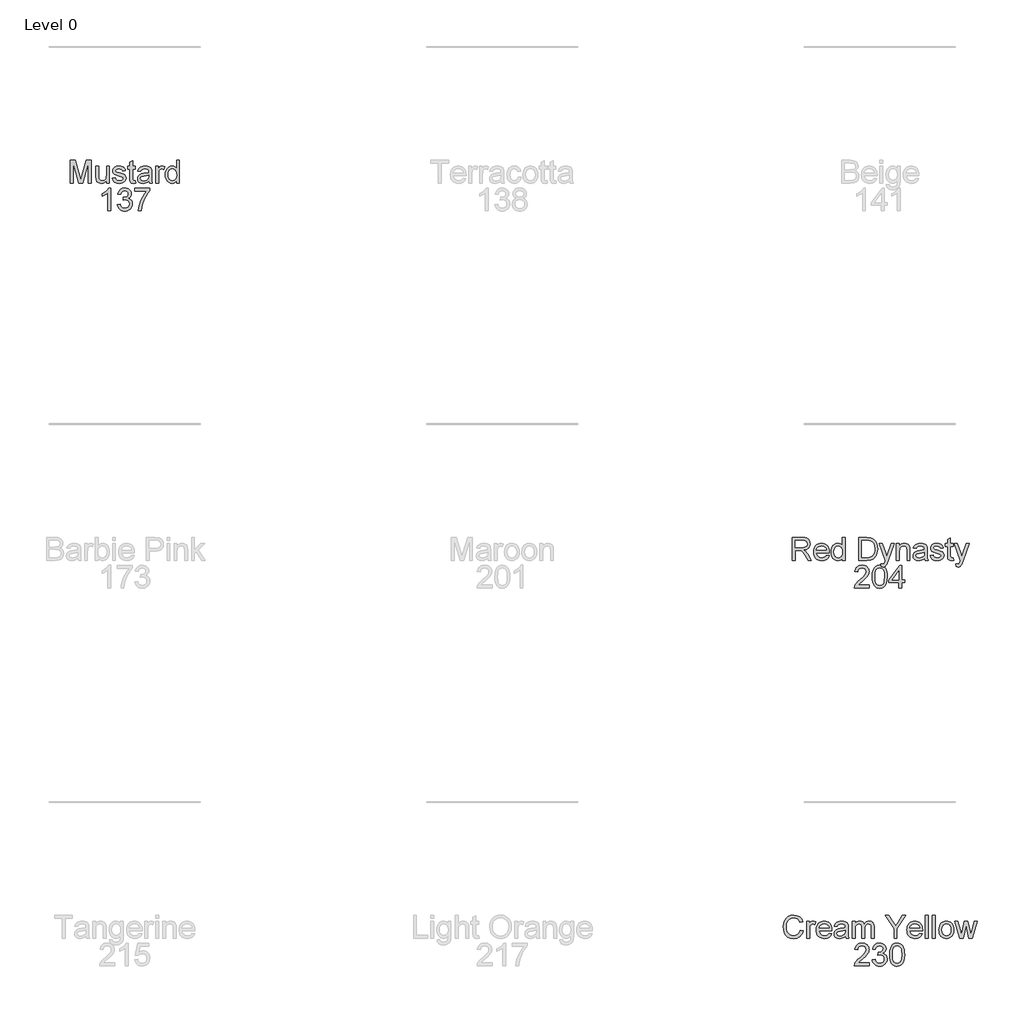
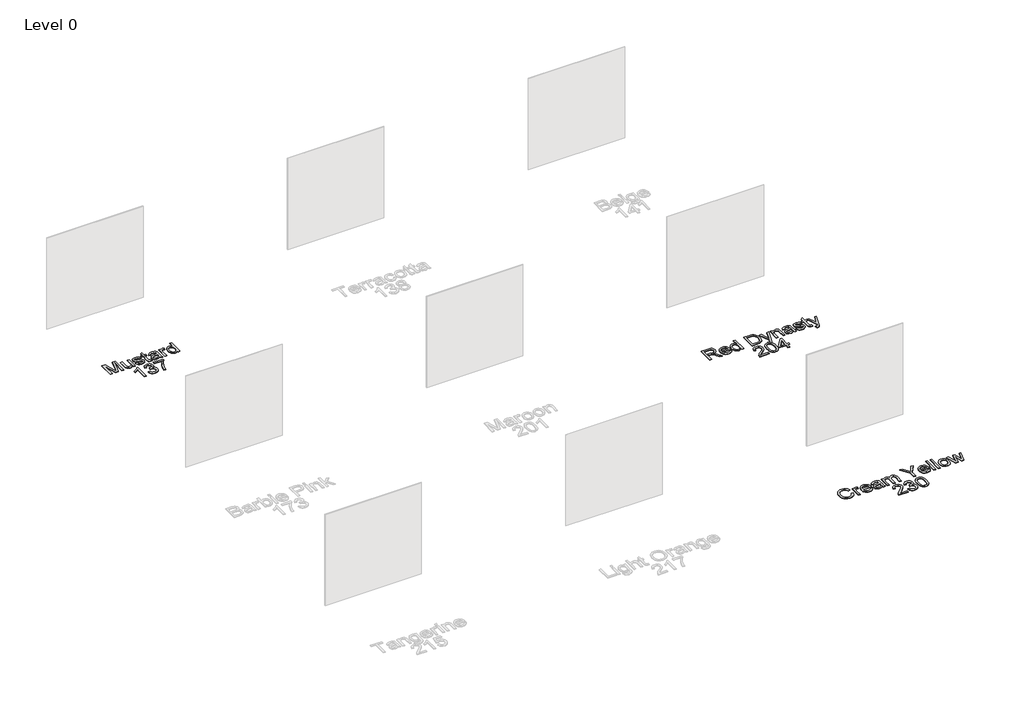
# One storey, part 12 of 15: 3 proxies.
"""IFC4 building model written with IfcOpenShell, lengths in millimetres."""

from ifc_helpers import new_model, si_unit, origin, origin_with_axes, place, context, project, spatial, polyline, outline, extrude, element, save

model = new_model("IFC4")

# Units and contexts
model_context = context("Model", 3, world=origin())
ifc_project = project(units=[si_unit("LENGTHUNIT", "METRE", prefix="MILLI")], contexts=[model_context])

# Site, building, storey
site = spatial("IfcSite", under=ifc_project)
building = spatial("IfcBuilding", under=site)
storey = spatial("IfcBuildingStorey", under=building, Name="Level 0", Elevation=0.0)

# Proxies
placement = place(None, origin())
element("IfcBuildingElementProxy", 1, Name="300mm Arial", ObjectType="300mm Arial", at=placement, inside=storey, context=model_context, shape_type="SweptSolid", body=[
    extrude(outline(polyline([(-171.1181557, -12002.860494), (-171.1181557, -11701.4915635), (-106.2973481, -11701.4915635), (-44.6403257, -11913.9066275), (-32.2059143, -11958.2731962), (-18.7414333, -11910.2278076), (41.8855195, -11701.4915635), (106.7063271, -11701.4915635), (106.7063271, -12002.860494), (69.0352108, -12002.860494), (69.0352108, -11739.1626798), (-6.6749038, -12002.860494), (-57.7369247, -12002.860494), (-133.4470394, -11739.1626798), (-133.4470394, -12002.860494), (-171.1181557, -12002.860494)])), origin_with_axes(), (0.0, 0.0, 1.0), 10.0),
    extrude(outline(polyline([(309.1885772, -12002.860494), (309.1885772, -11964.8214957), (295.5585493, -11983.5236966), (279.6844412, -11996.8824116), (261.566253, -12004.8976405), (241.2039845, -12007.5693835), (222.85587, -12005.6931853), (205.7769484, -12000.0645908), (191.4479447, -11991.6033049), (181.3495839, -11981.2290327), (170.1291831, -11953.4907302), (167.9218911, -11918.4683643), (167.9218911, -11781.5426857), (205.5930074, -11781.5426857), (205.5930074, -11900.7364521), (207.8738758, -11939.1433324), (213.3645145, -11951.9548229), (222.7730966, -11961.6944987), (235.4742225, -11967.8473251), (250.8424928, -11969.8982672), (267.0936799, -11967.8013398), (282.2964034, -11961.5105577), (294.8319824, -11951.605335), (303.0817361, -11938.6650858), (307.661867, -11920.9423707), (309.1885772, -11896.6897502), (309.1885772, -11781.5426857), (346.8596935, -11781.5426857), (346.8596935, -12002.860494), (309.1885772, -12002.860494)])), origin_with_axes(), (0.0, 0.0, 1.0), 10.0),
    extrude(outline(polyline([(384.5308099, -11936.9360404), (422.2019262, -11932.2271509), (428.1432204, -11948.3403823), (439.6395327, -11960.1861825), (456.7644396, -11967.470246), (479.5915174, -11969.8982672), (502.1426837, -11967.6725811), (517.9983977, -11960.9955229), (527.3793886, -11951.3202265), (530.5063855, -11940.0998256), (527.3609945, -11930.4981055), (517.9248213, -11923.1772538), (479.150059, -11912.4350996), (422.4226554, -11894.0042116), (408.0660605, -11884.7427824), (397.6641971, -11872.4831149), (391.3458238, -11858.0069584), (389.2396994, -11842.0960621), (390.9319566, -11827.5003439), (396.0087281, -11814.0266659), (404.0101615, -11802.2084568), (414.4764043, -11792.5791455), (438.4255221, -11781.4323211), (470.8359259, -11776.8337961), (495.3552609, -11778.6824032), (516.6740225, -11784.2282242), (533.8173235, -11792.9286334), (545.8102765, -11804.2410048), (553.7565276, -11819.0022698), (558.7597228, -11838.0493601), (521.0886065, -11842.7582497), (516.3337317, -11830.9032524), (506.9251496, -11821.972917), (492.7708899, -11816.3719136), (473.7789819, -11814.5049125), (452.1475206, -11816.2891401), (437.7265464, -11821.6418232), (429.6147484, -11829.3673451), (426.9108157, -11838.2700893), (431.398976, -11849.2329728), (445.4520683, -11857.5471059), (477.8992602, -11865.5669334), (533.1919241, -11883.2988455), (547.7968393, -11891.7785255), (558.8700874, -11903.3852025), (565.8506482, -11918.1556646), (568.1775018, -11936.1267001), (565.445978, -11954.7047408), (557.2514066, -11972.1791356), (543.9064872, -11987.1795239), (525.7239196, -11998.3355454), (503.7613645, -12005.260924), (479.0764826, -12007.5693835), (441.0926666, -12003.1180114), (413.3727583, -11989.763895), (394.8682939, -11967.654187), (384.5308099, -11936.9360404)])), origin_with_axes(), (0.0, 0.0, 1.0), 10.0),
    extrude(outline(polyline([(690.6086298, -11971.4433716), (695.3175194, -12003.96414), (667.1377585, -12007.5693835), (649.0563585, -12006.005885), (635.5734834, -12001.3153896), (626.0453397, -11994.0865084), (619.828134, -11984.9078526), (616.4068314, -11969.1441091), (615.2663972, -11942.1599648), (615.2663972, -11819.213802), (587.01306, -11819.213802), (587.01306, -11781.5426857), (615.2663972, -11781.5426857), (615.2663972, -11727.758338), (652.9375135, -11705.6118419), (652.9375135, -11781.5426857), (690.6086298, -11781.5426857), (690.6086298, -11819.213802), (652.9375135, -11819.213802), (652.9375135, -11941.0563188), (654.9240763, -11960.4804881), (661.3620112, -11967.3598814), (674.2010929, -11969.8982672), (690.6086298, -11971.4433716)])), origin_with_axes(), (0.0, 0.0, 1.0), 10.0),
    extrude(outline(polyline([(869.5464323, -11974.6071568), (851.5478057, -11990.0398064), (833.0157502, -12000.1381672), (813.5272015, -12005.7115794), (792.6590953, -12007.5693835), (761.1775936, -12003.0996173), (737.9550426, -11989.6903186), (723.635236, -11969.3280501), (718.8619671, -11943.9993748), (720.6645888, -11928.3827841), (726.0724542, -11914.2009331), (734.4141784, -11902.0608273), (745.0183769, -11892.5694718), (771.395516, -11880.2086368), (803.9898608, -11874.5432541), (842.5071056, -11868.5835657), (869.3257031, -11861.5938078), (869.5464323, -11853.2060983), (866.9528642, -11836.3938912), (859.17216, -11825.3942195), (841.7713417, -11817.2272392), (817.5279182, -11814.5049125), (795.0871165, -11816.3167313), (779.4153435, -11821.7521878), (768.7283715, -11831.8045633), (761.2419729, -11847.4671392), (723.5708566, -11842.7582497), (730.1099591, -11822.156858), (739.868029, -11805.9700502), (753.7555743, -11793.590821), (772.683103, -11784.4121652), (795.8320775, -11778.7283884), (822.3839605, -11776.8337961), (847.8505916, -11778.5076592), (868.0381161, -11783.5292485), (883.2592337, -11791.0800264), (893.826644, -11800.3414556), (900.834796, -11811.7917827), (905.3781386, -11825.9092543), (907.2175486, -11858.8714811), (907.2175486, -11905.7396473), (909.130535, -11971.1858542), (916.6353277, -12002.860494), (878.9642114, -12002.860494), (869.5464323, -11974.6071568)]), holes=[polyline([(869.5464323, -11899.2649241), (808.7723267, -11910.8164188), (776.3619229, -11916.9232599), (761.6834313, -11926.8560738), (756.5330834, -11941.3506244), (759.3381836, -11952.5526311), (767.7534842, -11961.7312869), (781.5950443, -11967.8565221), (800.6789228, -11969.8982672), (820.9124325, -11967.64499), (838.7914975, -11960.8851583), (853.2860481, -11950.9247533), (863.3660148, -11939.069756), (867.835781, -11926.8560738), (869.3257031, -11909.933502), (869.5464323, -11899.2649241)])]), origin_with_axes(), (0.0, 0.0, 1.0), 10.0),
    extrude(outline(polyline([(959.0153335, -12002.860494), (959.0153335, -11781.5426857), (991.9775603, -11781.5426857), (991.9775603, -11814.2841833), (1004.1544543, -11795.3014723), (1015.3748552, -11784.1178596), (1026.6320442, -11778.654812), (1038.9193029, -11776.8337961), (1057.6812846, -11779.7400639), (1076.737572, -11788.4588672), (1064.1560077, -11822.2304343), (1050.9122559, -11816.4362929), (1037.6685041, -11814.5049125), (1026.4205121, -11816.3627165), (1016.3681366, -11821.9361288), (1008.2471415, -11830.8020848), (1002.7932909, -11842.5375205), (998.2131601, -11863.5803706), (996.6864498, -11886.5362071), (996.6864498, -12002.860494), (959.0153335, -12002.860494)])), origin_with_axes(), (0.0, 0.0, 1.0), 10.0),
    extrude(outline(polyline([(1236.8398163, -12002.860494), (1236.8398163, -11967.3230932), (1225.5688317, -11984.9308452), (1211.9158111, -11997.507811), (1195.8807546, -12005.0539904), (1177.4636623, -12007.5693835), (1153.1098742, -12003.9273518), (1130.8162253, -11993.0012565), (1111.9438789, -11975.5544529), (1097.8539985, -11952.350296), (1089.0800129, -11924.3268851), (1086.1553511, -11892.422319), (1088.8500867, -11860.9132261), (1096.9342935, -11832.4575538), (1110.3987745, -11808.6739828), (1129.2343327, -11791.181194), (1152.0154252, -11780.4206456), (1177.3165095, -11776.8337961), (1195.7473974, -11779.3997731), (1212.0445698, -11787.0977038), (1225.8585387, -11798.8975188), (1236.8398163, -11813.7691485), (1236.8398163, -11701.4915635), (1274.5109326, -11701.4915635), (1274.5109326, -12002.860494), (1236.8398163, -12002.860494)]), holes=[polyline([(1123.8264674, -11892.2751662), (1128.0755044, -11926.350236), (1140.8226155, -11950.5844625), (1159.345474, -11965.069816), (1180.921753, -11969.8982672), (1202.488835, -11965.2905452), (1220.5426439, -11951.4673793), (1232.7655232, -11928.1712519), (1236.8398163, -11895.1446458), (1232.6919468, -11859.037028), (1220.2483383, -11834.0026582), (1201.7346769, -11819.3793489), (1179.3766486, -11814.5049125), (1157.5796404, -11819.1862108), (1139.7189696, -11833.230106), (1127.7995929, -11857.3539678), (1123.8264674, -11892.2751662)])]), origin_with_axes(), (0.0, 0.0, 1.0), 10.0),
    extrude(outline(polyline([(363.3408069, -12368.7849475), (325.6696906, -12368.7849475), (325.6696906, -12133.9290818), (289.9851371, -12159.3497277), (250.327458, -12178.3692268), (250.327458, -12142.7582497), (279.9143675, -12126.6634124), (305.5465455, -12107.5151545), (325.7524641, -12087.1528861), (339.0605952, -12067.4160171), (363.3408069, -12067.4160171), (363.3408069, -12368.7849475)])), origin_with_axes(), (0.0, 0.0, 1.0), 10.0),
    extrude(outline(polyline([(452.8097082, -12288.7338254), (490.4808245, -12284.0249358), (498.9145192, -12307.6981422), (511.2661572, -12323.6826149), (528.1427437, -12332.7876943), (550.1512841, -12335.8227207), (575.9766001, -12331.6472601), (595.9158043, -12319.1208782), (608.6629154, -12300.4324728), (612.9119525, -12277.7709419), (608.6997036, -12256.2590422), (596.0629571, -12238.8122386), (576.9330933, -12227.2515469), (553.2414928, -12223.397983), (526.8275656, -12227.5182614), (531.0214203, -12189.8471451), (537.0546851, -12190.2886035), (559.6242455, -12187.5846708), (579.8025729, -12179.4728728), (594.0396061, -12165.7508744), (598.7852838, -12146.2163404), (595.3455872, -12129.9467592), (585.0264972, -12116.7489926), (569.2811478, -12108.0025982), (549.5626729, -12105.0871334), (529.8074097, -12108.0301893), (513.6573902, -12116.8593572), (501.8667722, -12131.574637), (495.189714, -12152.1760288), (457.5185977, -12147.4671392), (468.6102399, -12113.6403898), (488.3471089, -12088.3852908), (515.3496473, -12072.6583355), (548.2382977, -12067.4160171), (571.9207011, -12070.0003881), (593.6717241, -12077.7535011), (612.0106416, -12089.9855775), (625.4567285, -12106.0068384), (633.7064822, -12124.4653175), (636.4564002, -12144.0090485), (633.844438, -12162.2192072), (626.0085515, -12178.7371088), (613.0591053, -12192.8085951), (595.1064639, -12203.6795081), (618.6876998, -12213.2076518), (636.1620946, -12229.4312477), (646.9778252, -12251.4673793), (650.5830688, -12278.4331295), (648.780447, -12297.5445992), (643.3725817, -12315.1477526), (634.3594728, -12331.2425899), (621.7411203, -12345.829111), (606.3682515, -12357.9324287), (589.0915933, -12366.5776555), (569.9111457, -12371.7647917), (548.8269089, -12373.4938371), (529.7706215, -12372.0177105), (512.4065914, -12367.589331), (496.7348184, -12360.2086985), (482.7553026, -12349.875813), (471.0336625, -12337.1976797), (462.1355167, -12322.781304), (456.0608653, -12306.6266859), (452.8097082, -12288.7338254)])), origin_with_axes(), (0.0, 0.0, 1.0), 10.0),
    extrude(outline(polyline([(683.5452955, -12109.7960229), (683.5452955, -12072.1249066), (881.3186561, -12072.1249066), (881.3186561, -12102.5855358), (853.1296983, -12138.2608923), (825.2166519, -12183.6299393), (800.5961493, -12234.5540045), (782.284823, -12286.8944154), (773.3085024, -12326.0554538), (768.3053072, -12368.7849475), (730.6341909, -12368.7849475), (734.708484, -12329.9550029), (745.6069881, -12283.8042066), (763.0353976, -12234.8850983), (786.699407, -12187.7502177), (814.3273448, -12145.1402856), (843.6475398, -12109.7960229), (683.5452955, -12109.7960229)])), origin_with_axes(), (0.0, 0.0, 1.0), 10.0),
])
element("IfcBuildingElementProxy", 2, Name="300mm Arial", ObjectType="300mm Arial", at=placement, inside=storey, context=model_context, shape_type="SweptSolid", body=[
    extrude(outline(polyline([(9393.309562, -17002.860494), (9393.309562, -16701.4915635), (9523.1719063, -16701.4915635), (9558.0747106, -16703.5241116), (9583.4677654, -16709.6217556), (9602.027412, -16720.8789447), (9616.4299921, -16738.3901276), (9625.6730273, -16760.1043624), (9628.754039, -16783.9707069), (9623.6496763, -16813.6587839), (9608.3365882, -16838.2700893), (9596.7368091, -16848.2994722), (9582.3549223, -16856.3147012), (9545.2448261, -16866.3026974), (9566.6555582, -16882.4159288), (9597.1897638, -16921.1906911), (9647.4424443, -17002.860494), (9603.6644869, -17002.860494), (9564.4482662, -16940.3941312), (9536.1213526, -16899.0441949), (9516.2189366, -16879.509661), (9498.3030835, -16872.3359621), (9476.450893, -16871.0115869), (9430.9806784, -16871.0115869), (9430.9806784, -17002.860494), (9393.309562, -17002.860494)]), holes=[polyline([(9430.9806784, -16833.3404706), (9515.2992316, -16833.3404706), (9539.515064, -16832.0068984), (9558.3046369, -16828.0061817), (9572.4496996, -16821.0716061), (9582.7320014, -16810.9364571), (9588.9951923, -16798.6767896), (9591.0829227, -16785.3686584), (9587.1006001, -16766.9929528), (9575.1536323, -16752.1857025), (9554.5982258, -16742.4184355), (9524.7905871, -16739.1626798), (9430.9806784, -16739.1626798), (9430.9806784, -16833.3404706)])]), origin_with_axes(), (0.0, 0.0, 1.0), 10.0),
    extrude(outline(polyline([(9844.9214993, -16936.9360404), (9881.8568516, -16941.64493), (9868.5487205, -16969.4752029), (9847.3127323, -16990.2789297), (9818.6271337, -17003.2467701), (9782.9701713, -17007.5693835), (9759.5958691, -17005.7046817), (9738.7691496, -17000.1105761), (9720.490013, -16990.7870668), (9704.7584592, -16977.7341537), (9692.1079171, -16961.3151204), (9683.0718156, -16941.8932503), (9677.6501546, -16919.4685435), (9675.8429343, -16894.0409998), (9677.6685487, -16867.7512327), (9683.1453919, -16844.5792656), (9692.273464, -16824.5250983), (9705.0527648, -16807.5887309), (9720.7429319, -16794.133447), (9738.6036027, -16784.5225298), (9758.6347774, -16778.7559796), (9780.8364558, -16776.8337961), (9802.3230635, -16778.751381), (9821.7541307, -16784.5041357), (9839.1296572, -16794.0920602), (9854.449643, -16807.5151545), (9866.9553316, -16824.4147337), (9875.8879663, -16844.4321128), (9881.2475471, -16867.5672917), (9883.034074, -16893.8202706), (9882.8133448, -16903.9738137), (9713.5140507, -16903.9738137), (9720.034759, -16932.1719686), (9735.1823002, -16952.902119), (9757.0436877, -16965.6492302), (9783.7059353, -16969.8982672), (9803.7555041, -16967.9300985), (9820.6412876, -16962.0255925), (9834.3632861, -16951.8168672), (9844.9214993, -16936.9360404)]), holes=[polyline([(9713.5140507, -16866.3026974), (9845.3629577, -16866.3026974), (9840.2677921, -16846.4002814), (9830.2797959, -16832.1632482), (9808.3172408, -16818.9194964), (9780.689303, -16814.5049125), (9755.2962483, -16818.0273826), (9734.2993834, -16828.5947929), (9719.7036652, -16845.0667092), (9713.5140507, -16866.3026974)])]), origin_with_axes(), (0.0, 0.0, 1.0), 10.0),
    extrude(outline(polyline([(10057.2629869, -17002.860494), (10057.2629869, -16967.3230932), (10045.9920023, -16984.9308452), (10032.3389818, -16997.507811), (10016.3039253, -17005.0539904), (9997.8868329, -17007.5693835), (9973.5330448, -17003.9273518), (9951.2393959, -16993.0012565), (9932.3670496, -16975.5544529), (9918.2771692, -16952.350296), (9909.5031836, -16924.3268851), (9906.5785217, -16892.422319), (9909.2732573, -16860.9132261), (9917.3574642, -16832.4575538), (9930.8219452, -16808.6739828), (9949.6575034, -16791.181194), (9972.4385959, -16780.4206456), (9997.7396801, -16776.8337961), (10016.1705681, -16779.3997731), (10032.4677405, -16787.0977038), (10046.2817094, -16798.8975188), (10057.2629869, -16813.7691485), (10057.2629869, -16701.4915635), (10094.9341033, -16701.4915635), (10094.9341033, -17002.860494), (10057.2629869, -17002.860494)]), holes=[polyline([(9944.249638, -16892.2751662), (9948.4986751, -16926.350236), (9961.2457862, -16950.5844625), (9979.7686447, -16965.069816), (10001.3449237, -16969.8982672), (10022.9120056, -16965.2905452), (10040.9658146, -16951.4673793), (10053.1886938, -16928.1712519), (10057.2629869, -16895.1446458), (10053.1151174, -16859.037028), (10040.671509, -16834.0026582), (10022.1578476, -16819.3793489), (9999.7998193, -16814.5049125), (9978.0028111, -16819.1862108), (9960.1421402, -16833.230106), (9948.2227636, -16857.3539678), (9944.249638, -16892.2751662)])]), origin_with_axes(), (0.0, 0.0, 1.0), 10.0),
    extrude(outline(polyline([(10273.8719057, -17002.860494), (10273.8719057, -16701.4915635), (10377.8353575, -16701.4915635), (10431.6197052, -16705.8325711), (10455.6423995, -16714.2018865), (10475.9126975, -16727.390456), (10496.7532125, -16750.3462925), (10511.597251, -16778.8939353), (10520.4816012, -16812.4815615), (10523.4430512, -16850.557348), (10521.4380944, -16882.9033724), (10515.4232237, -16911.3682418), (10506.2629621, -16935.6024682), (10494.821832, -16955.2565638), (10481.6516566, -16970.771987), (10467.3042588, -16982.590196), (10450.8323424, -16991.3549846), (10431.2886114, -16997.710146), (10382.8385527, -17002.860494), (10273.8719057, -17002.860494)]), holes=[polyline([(10311.543022, -16965.1893777), (10378.2032395, -16965.1893777), (10405.7759951, -16963.8282143), (10426.6900865, -16959.7447241), (10442.4722241, -16953.1780305), (10454.6491181, -16944.3672567), (10467.7365201, -16928.0608873), (10477.5681664, -16906.9536578), (10483.7209928, -16880.9535978), (10485.7719349, -16849.9687368), (10481.7528241, -16808.9131061), (10469.6954917, -16778.5996297), (10451.8808061, -16757.7775088), (10430.5896356, -16745.1959446), (10408.9213861, -16740.670996), (10377.1731699, -16739.1626798), (10311.543022, -16739.1626798), (10311.543022, -16965.1893777)])]), origin_with_axes(), (0.0, 0.0, 1.0), 10.0),
    extrude(outline(polyline([(10570.5319466, -17087.6205057), (10565.8230571, -17051.3473409), (10584.9529208, -17054.6582789), (10602.8319858, -17050.5012124), (10613.7948692, -17038.9129295), (10624.0955651, -17011.1746271), (10627.0386211, -17002.0511536), (10546.9874989, -16781.5426857), (10586.7187544, -16781.5426857), (10629.1723366, -16904.4152721), (10643.9611929, -16953.5643066), (10658.7500491, -16910.1542312), (10702.3808537, -16781.5426857), (10741.8178036, -16781.5426857), (10664.7833138, -17008.1579947), (10644.7705332, -17057.3070293), (10634.5250197, -17072.9971964), (10622.9183427, -17083.8681093), (10609.4354676, -17090.2140737), (10593.5613595, -17092.3293952), (10570.5319466, -17087.6205057)])), origin_with_axes(), (0.0, 0.0, 1.0), 10.0),
    extrude(outline(polyline([(10773.0141968, -17002.860494), (10773.0141968, -16781.5426857), (10810.6853131, -16781.5426857), (10810.6853131, -16812.4447733), (10823.772715, -16796.8649708), (10839.4904733, -16785.7365404), (10857.8385878, -16779.0594822), (10878.8170586, -16776.8337961), (10897.3859023, -16778.6272209), (10914.3912475, -16784.0074951), (10928.5730984, -16792.303234), (10938.6714592, -16802.8430532), (10949.9654364, -16830.5445674), (10951.9519992, -16866.964885), (10951.9519992, -17002.860494), (10914.2808829, -17002.860494), (10914.2808829, -16872.0416565), (10909.9398754, -16838.7115477), (10903.9342018, -16828.7879309), (10894.5991962, -16821.0900002), (10882.6338343, -16816.1511844), (10868.7370919, -16814.5049125), (10846.6733692, -16818.2021265), (10827.8654022, -16829.2937687), (10820.3491132, -16838.3482643), (10814.9803354, -16850.7228949), (10810.6853131, -16885.4325611), (10810.6853131, -17002.860494), (10773.0141968, -17002.860494)])), origin_with_axes(), (0.0, 0.0, 1.0), 10.0),
    extrude(outline(polyline([(11145.0164703, -16974.6071568), (11127.0178437, -16990.0398064), (11108.4857882, -17000.1381672), (11088.9972395, -17005.7115794), (11068.1291333, -17007.5693835), (11036.6476316, -17003.0996173), (11013.4250806, -16989.6903186), (10999.1052739, -16969.3280501), (10994.3320051, -16943.9993748), (10996.1346268, -16928.3827841), (11001.5424922, -16914.2009331), (11009.8842164, -16902.0608273), (11020.4884149, -16892.5694718), (11046.865554, -16880.2086368), (11079.4598987, -16874.5432541), (11117.9771436, -16868.5835657), (11144.7957411, -16861.5938078), (11145.0164703, -16853.2060983), (11142.4229022, -16836.3938912), (11134.642198, -16825.3942195), (11117.2413796, -16817.2272392), (11092.9979562, -16814.5049125), (11070.5571545, -16816.3167313), (11054.8853815, -16821.7521878), (11044.1984095, -16831.8045633), (11036.7120109, -16847.4671392), (10999.0408946, -16842.7582497), (11005.5799971, -16822.156858), (11015.338067, -16805.9700502), (11029.2256123, -16793.590821), (11048.153141, -16784.4121652), (11071.3021155, -16778.7283884), (11097.8539985, -16776.8337961), (11123.3206296, -16778.5076592), (11143.5081541, -16783.5292485), (11158.7292717, -16791.0800264), (11169.296682, -16800.3414556), (11176.304834, -16811.7917827), (11180.8481766, -16825.9092543), (11182.6875866, -16858.8714811), (11182.6875866, -16905.7396473), (11184.600573, -16971.1858542), (11192.1053657, -17002.860494), (11154.4342494, -17002.860494), (11145.0164703, -16974.6071568)]), holes=[polyline([(11145.0164703, -16899.2649241), (11084.2423647, -16910.8164188), (11051.8319609, -16916.9232599), (11037.1534693, -16926.8560738), (11032.0031214, -16941.3506244), (11034.8082216, -16952.5526311), (11043.2235222, -16961.7312869), (11057.0650823, -16967.8565221), (11076.1489608, -16969.8982672), (11096.3824705, -16967.64499), (11114.2615355, -16960.8851583), (11128.7560861, -16950.9247533), (11138.8360528, -16939.069756), (11143.305819, -16926.8560738), (11144.7957411, -16909.933502), (11145.0164703, -16899.2649241)])]), origin_with_axes(), (0.0, 0.0, 1.0), 10.0),
    extrude(outline(polyline([(11220.3587029, -16936.9360404), (11258.0298192, -16932.2271509), (11263.9711134, -16948.3403823), (11275.4674258, -16960.1861825), (11292.5923326, -16967.470246), (11315.4194104, -16969.8982672), (11337.9705768, -16967.6725811), (11353.8262907, -16960.9955229), (11363.2072816, -16951.3202265), (11366.3342786, -16940.0998256), (11363.1888875, -16930.4981055), (11353.7527143, -16923.1772538), (11314.9779521, -16912.4350996), (11258.2505484, -16894.0042116), (11243.8939535, -16884.7427824), (11233.4920901, -16872.4831149), (11227.1737169, -16858.0069584), (11225.0675924, -16842.0960621), (11226.7598496, -16827.5003439), (11231.8366211, -16814.0266659), (11239.8380545, -16802.2084568), (11250.3042973, -16792.5791455), (11274.2534152, -16781.4323211), (11306.663819, -16776.8337961), (11331.1831539, -16778.6824032), (11352.5019156, -16784.2282242), (11369.6452165, -16792.9286334), (11381.6381696, -16804.2410048), (11389.5844207, -16819.0022698), (11394.5876158, -16838.0493601), (11356.9164995, -16842.7582497), (11352.1616247, -16830.9032524), (11342.7530427, -16821.972917), (11328.5987829, -16816.3719136), (11309.6068749, -16814.5049125), (11287.9754136, -16816.2891401), (11273.5544394, -16821.6418232), (11265.4426414, -16829.3673451), (11262.7387087, -16838.2700893), (11267.2268691, -16849.2329728), (11281.2799613, -16857.5471059), (11313.7271533, -16865.5669334), (11369.0198171, -16883.2988455), (11383.6247324, -16891.7785255), (11394.6979804, -16903.3852025), (11401.6785413, -16918.1556646), (11404.0053949, -16936.1267001), (11401.2738711, -16954.7047408), (11393.0792996, -16972.1791356), (11379.7343803, -16987.1795239), (11361.5518126, -16998.3355454), (11339.5892575, -17005.260924), (11314.9043757, -17007.5693835), (11276.9205597, -17003.1180114), (11249.2006513, -16989.763895), (11230.696187, -16967.654187), (11220.3587029, -16936.9360404)])), origin_with_axes(), (0.0, 0.0, 1.0), 10.0),
    extrude(outline(polyline([(11526.4365229, -16971.4433716), (11531.1454124, -17003.96414), (11502.9656516, -17007.5693835), (11484.8842515, -17006.005885), (11471.4013764, -17001.3153896), (11461.8732327, -16994.0865084), (11455.656027, -16984.9078526), (11452.2347245, -16969.1441091), (11451.0942903, -16942.1599648), (11451.0942903, -16819.213802), (11422.840953, -16819.213802), (11422.840953, -16781.5426857), (11451.0942903, -16781.5426857), (11451.0942903, -16727.758338), (11488.7654066, -16705.6118419), (11488.7654066, -16781.5426857), (11526.4365229, -16781.5426857), (11526.4365229, -16819.213802), (11488.7654066, -16819.213802), (11488.7654066, -16941.0563188), (11490.7519694, -16960.4804881), (11497.1899043, -16967.3598814), (11510.0289859, -16969.8982672), (11526.4365229, -16971.4433716)])), origin_with_axes(), (0.0, 0.0, 1.0), 10.0),
    extrude(outline(polyline([(11564.1076392, -17087.6205057), (11559.3987497, -17051.3473409), (11578.5286134, -17054.6582789), (11596.4076784, -17050.5012124), (11607.3705618, -17038.9129295), (11617.6712577, -17011.1746271), (11620.6143136, -17002.0511536), (11540.5631915, -16781.5426857), (11580.294447, -16781.5426857), (11622.7480292, -16904.4152721), (11637.5368854, -16953.5643066), (11652.3257416, -16910.1542312), (11695.9565463, -16781.5426857), (11735.3934961, -16781.5426857), (11658.3590064, -17008.1579947), (11638.3462258, -17057.3070293), (11628.1007122, -17072.9971964), (11616.4940353, -17083.8681093), (11603.0111602, -17090.2140737), (11587.1370521, -17092.3293952), (11564.1076392, -17087.6205057)])), origin_with_axes(), (0.0, 0.0, 1.0), 10.0),
    extrude(outline(polyline([(10415.1385919, -17331.1138312), (10415.1385919, -17368.7849475), (10217.3652312, -17368.7849475), (10221.4119332, -17342.8124787), (10230.7009536, -17322.5145896), (10244.2941933, -17302.8237058), (10263.9574859, -17282.213117), (10291.4566651, -17259.156113), (10332.1076255, -17223.0484951), (10356.4982018, -17196.3954446), (10368.69349, -17174.7639833), (10372.758586, -17153.7211331), (10368.9234162, -17134.8579838), (10357.4179068, -17119.1770138), (10339.7319799, -17108.6096035), (10317.3555575, -17105.0871334), (10293.8570951, -17108.52683), (10275.6009511, -17118.84592), (10263.8195302, -17135.2350629), (10259.7452371, -17156.8849183), (10222.0741208, -17152.1760288), (10231.2067913, -17115.7373171), (10239.7531499, -17101.2013798), (10250.9528574, -17089.1210548), (10264.5483964, -17079.6251008), (10280.2822495, -17072.8422765), (10318.1648979, -17067.4160171), (10338.3547217, -17068.9243332), (10356.3234579, -17073.4492818), (10372.0711065, -17080.9908627), (10385.5976676, -17091.549076), (10396.4616828, -17104.3421723), (10404.2216936, -17118.5884026), (10408.8777001, -17134.2877667), (10410.4297023, -17151.4402648), (10408.7558392, -17169.4572855), (10403.73425, -17187.1616065), (10394.8223087, -17205.1694302), (10381.4773893, -17224.0969588), (10360.2046129, -17246.6941104), (10327.5091006, -17275.7108027), (10284.1726016, -17311.9471793), (10267.1764534, -17331.1138312), (10415.1385919, -17331.1138312)])), origin_with_axes(), (0.0, 0.0, 1.0), 10.0),
    extrude(outline(polyline([(10452.8097082, -17220.5285035), (10455.5780202, -17172.2899768), (10463.8829562, -17133.8187172), (10477.6417428, -17104.5261133), (10496.7716066, -17083.8235541), (10521.4105032, -17071.5179013), (10551.6963885, -17067.4160171), (10574.9097424, -17069.8440382), (10595.6950751, -17077.1281017), (10613.0774994, -17088.983099), (10626.0821279, -17105.1239216), (10635.9045772, -17125.4126136), (10643.7404637, -17149.7112194), (10648.8724175, -17180.5673217), (10650.5830688, -17220.5285035), (10647.8423479, -17268.4911186), (10639.6201853, -17306.8704077), (10625.9441721, -17336.1906027), (10606.8418995, -17356.9759355), (10582.1478206, -17369.3643617), (10551.6963885, -17373.4938371), (10530.9478439, -17371.7004123), (10512.5537442, -17366.3201381), (10496.5140892, -17357.3530145), (10482.828879, -17344.7990414), (10469.6954917, -17322.1053209), (10460.3145009, -17293.828991), (10454.6859063, -17259.9700519), (10452.8097082, -17220.5285035)]), holes=[polyline([(10490.4808245, -17220.4549271), (10494.8954084, -17279.7115194), (10500.4136383, -17299.9795181), (10508.1391602, -17314.0073184), (10527.8576352, -17330.3688702), (10551.6963885, -17335.8227207), (10575.5351417, -17330.3504761), (10595.2536167, -17313.933742), (10602.9791386, -17299.8829491), (10608.4973685, -17279.6195489), (10612.9119525, -17220.4549271), (10608.6445213, -17162.5319069), (10603.3102324, -17142.3305869), (10595.8422279, -17127.9693935), (10576.1605411, -17110.8076984), (10551.2549301, -17105.0871334), (10527.6736942, -17110.1271167), (10508.7277714, -17125.2470667), (10500.7447321, -17140.8820515), (10495.0425612, -17161.9616898), (10490.4808245, -17220.4549271)])]), origin_with_axes(), (0.0, 0.0, 1.0), 10.0),
    extrude(outline(polyline([(10805.9764235, -17368.7849475), (10805.9764235, -17298.1516044), (10669.4186269, -17298.1516044), (10669.4186269, -17260.4804881), (10815.3942026, -17072.1249066), (10843.6475398, -17072.1249066), (10843.6475398, -17260.4804881), (10881.3186561, -17260.4804881), (10881.3186561, -17298.1516044), (10843.6475398, -17298.1516044), (10843.6475398, -17368.7849475), (10805.9764235, -17368.7849475)]), holes=[polyline([(10805.9764235, -17260.4804881), (10805.9764235, -17144.0826249), (10715.7717583, -17260.4804881), (10805.9764235, -17260.4804881)])]), origin_with_axes(), (0.0, 0.0, 1.0), 10.0),
])
element("IfcBuildingElementProxy", 3, Name="300mm Arial", ObjectType="300mm Arial", at=placement, inside=storey, context=model_context, shape_type="SweptSolid", body=[
    extrude(outline(polyline([(9499.2595767, -21904.8181976), (9536.930693, -21914.5302822), (9529.476484, -21937.9574675), (9519.5482687, -21958.4278013), (9507.1460469, -21975.9412835), (9492.2698188, -21990.4979142), (9475.2552765, -22001.9413435), (9456.4381124, -22010.1152216), (9435.8183266, -22015.0195485), (9413.395919, -22016.6543241), (9369.700735, -22011.7063113), (9335.0002658, -21996.8622727), (9308.4023976, -21972.6372434), (9289.0150164, -21939.5462579), (9277.1784132, -21900.6427369), (9273.2328788, -21858.980101), (9277.693448, -21815.0365966), (9291.0751556, -21777.0895688), (9312.6790258, -21746.3438311), (9341.8060827, -21724.0041969), (9376.3502021, -21710.4017602), (9414.2052594, -21705.8676146), (9455.5092104, -21711.7353324), (9473.4779466, -21719.0699797), (9489.6578566, -21729.3384859), (9503.7822259, -21742.269538), (9515.5843402, -21757.5918231), (9532.2218034, -21795.4100922), (9494.5506871, -21804.3864129), (9481.4908763, -21776.9148249), (9463.6485995, -21758.0700697), (9440.8031276, -21747.1715656), (9412.7337314, -21743.5387309), (9380.3785099, -21747.5670387), (9353.7990358, -21759.6519623), (9333.6299054, -21778.5243086), (9320.5057152, -21802.9148849), (9313.3044251, -21830.4876404), (9310.9039951, -21858.9065246), (9313.7458835, -21893.7081613), (9322.2715488, -21923.8009085), (9336.8028876, -21948.0351349), (9357.6617967, -21965.2612094), (9382.6685753, -21975.5527082), (9409.6435226, -21978.9832078), (9441.0882362, -21974.3111064), (9467.2906313, -21960.2948024), (9487.0734856, -21937.0814485), (9499.2595767, -21904.8181976)])), origin_with_axes(), (0.0, 0.0, 1.0), 10.0),
    extrude(outline(polyline([(9584.0195883, -22011.9454346), (9584.0195883, -21790.6276263), (9616.9818151, -21790.6276263), (9616.9818151, -21823.3691238), (9629.1587092, -21804.3864129), (9640.37911, -21793.2028002), (9651.6362991, -21787.7397526), (9663.9235577, -21785.9187367), (9682.6855395, -21788.8250045), (9701.7418268, -21797.5438078), (9689.1602626, -21831.3153749), (9675.9165107, -21825.5212335), (9662.6727589, -21823.589853), (9651.4247669, -21825.4476571), (9641.3723914, -21831.0210693), (9633.2513964, -21839.8870254), (9627.7975458, -21851.6224611), (9623.2174149, -21872.6653112), (9621.6907047, -21895.6211477), (9621.6907047, -22011.9454346), (9584.0195883, -22011.9454346)])), origin_with_axes(), (0.0, 0.0, 1.0), 10.0),
    extrude(outline(polyline([(9880.2381709, -21946.020981), (9917.1735232, -21950.7298706), (9903.865392, -21978.5601435), (9882.6294038, -21999.3638703), (9853.9438053, -22012.3317106), (9818.2868429, -22016.6543241), (9794.9125406, -22014.7896222), (9774.0858212, -22009.1955166), (9755.8066845, -21999.8720073), (9740.0751307, -21986.8190943), (9727.4245886, -21970.400061), (9718.3884871, -21950.9781909), (9712.9668262, -21928.553484), (9711.1596059, -21903.1259404), (9712.9852203, -21876.8361733), (9718.4620635, -21853.6642061), (9727.5901355, -21833.6100389), (9740.3694363, -21816.6736715), (9756.0596034, -21803.2183875), (9773.9202743, -21793.6074704), (9793.9514489, -21787.8409201), (9816.1531273, -21785.9187367), (9837.6397351, -21787.8363216), (9857.0708022, -21793.5890763), (9874.4463287, -21803.1770008), (9889.7663145, -21816.6000951), (9902.2720031, -21833.4996743), (9911.2046378, -21853.5170533), (9916.5642186, -21876.6522323), (9918.3507456, -21902.9052112), (9918.1300164, -21913.0587542), (9748.8307222, -21913.0587542), (9755.3514306, -21941.2569092), (9770.4989717, -21961.9870596), (9792.3603593, -21974.7341707), (9819.0226069, -21978.9832078), (9839.0721756, -21977.0150391), (9855.9579592, -21971.1105331), (9869.6799576, -21960.9018077), (9880.2381709, -21946.020981)]), holes=[polyline([(9748.8307222, -21875.3876379), (9880.6796293, -21875.3876379), (9875.5844636, -21855.485222), (9865.5964675, -21841.2481888), (9843.6339123, -21828.004437), (9816.0059745, -21823.589853), (9790.6129198, -21827.1123231), (9769.6160549, -21837.6797334), (9755.0203368, -21854.1516498), (9748.8307222, -21875.3876379)])]), origin_with_axes(), (0.0, 0.0, 1.0), 10.0),
    extrude(outline(polyline([(10097.288548, -21983.6920973), (10079.2899214, -21999.124747), (10060.7578659, -22009.2231078), (10041.2693172, -22014.79652), (10020.401211, -22016.6543241), (9988.9197093, -22012.1845578), (9965.6971583, -21998.7752591), (9951.3773517, -21978.4129907), (9946.6040828, -21953.0843153), (9948.4067046, -21937.4677246), (9953.8145699, -21923.2858737), (9962.1562941, -21911.1457679), (9972.7604927, -21901.6544124), (9999.1376317, -21889.2935774), (10031.7319765, -21883.6281946), (10070.2492214, -21877.6685063), (10097.0678188, -21870.6787484), (10097.288548, -21862.2910389), (10094.69498, -21845.4788317), (10086.9142758, -21834.4791601), (10069.5134574, -21826.3121798), (10045.2700339, -21823.589853), (10022.8292322, -21825.4016718), (10007.1574592, -21830.8371283), (9996.4704872, -21840.8895038), (9988.9840886, -21856.5520798), (9951.3129723, -21851.8431903), (9957.8520748, -21831.2417985), (9967.6101447, -21815.0549907), (9981.49769, -21802.6757616), (10000.4252187, -21793.4971058), (10023.5741932, -21787.813329), (10050.1260762, -21785.9187367), (10075.5927074, -21787.5925998), (10095.7802318, -21792.614189), (10111.0013494, -21800.164967), (10121.5687597, -21809.4263962), (10128.5769117, -21820.8767233), (10133.1202543, -21834.9941949), (10134.9596643, -21867.9564216), (10134.9596643, -21914.8245878), (10136.8726507, -21980.2707948), (10144.3774434, -22011.9454346), (10106.7063271, -22011.9454346), (10097.288548, -21983.6920973)]), holes=[polyline([(10097.288548, -21908.3498647), (10036.5144424, -21919.9013594), (10004.1040386, -21926.0082005), (9989.425547, -21935.9410143), (9984.2751991, -21950.435565), (9987.0802993, -21961.6375717), (9995.4956, -21970.8162275), (10009.33716, -21976.9414627), (10028.4210385, -21978.9832078), (10048.6545483, -21976.7299306), (10066.5336132, -21969.9700989), (10081.0281638, -21960.0096939), (10091.1081305, -21948.1546966), (10095.5778967, -21935.9410143), (10097.0678188, -21919.0184426), (10097.288548, -21908.3498647)])]), origin_with_axes(), (0.0, 0.0, 1.0), 10.0),
    extrude(outline(polyline([(10186.7574492, -22011.9454346), (10186.7574492, -21790.6276263), (10224.4285656, -21790.6276263), (10224.4285656, -21827.0479438), (10235.759331, -21810.31851), (10250.327458, -21797.212714), (10267.6363059, -21788.742231), (10287.1892339, -21785.9187367), (10308.1401136, -21788.7974133), (10324.9339266, -21797.4334432), (10337.4787027, -21811.2566091), (10345.6824712, -21829.6966941), (10359.4136666, -21810.5438378), (10375.0762426, -21796.8632261), (10392.670199, -21788.6548591), (10412.1955359, -21785.9187367), (10440.5132525, -21790.4712764), (10461.454935, -21804.1288955), (10474.3951842, -21827.2594759), (10478.7086006, -21860.2308997), (10478.7086006, -22011.9454346), (10441.0374843, -22011.9454346), (10441.0374843, -21876.4177075), (10437.5426054, -21844.9637969), (10432.6313807, -21836.2909789), (10424.8874647, -21829.4759649), (10414.9270597, -21825.061381), (10403.366368, -21823.589853), (10382.9581143, -21827.3606435), (10366.3206511, -21838.6730148), (10355.2566001, -21858.2995193), (10351.5685831, -21887.012709), (10351.5685831, -22011.9454346), (10313.8974668, -22011.9454346), (10313.8974668, -21872.2238528), (10311.717766, -21850.9234853), (10305.1786635, -21835.7299589), (10293.6731541, -21826.6248795), (10276.5942325, -21823.589853), (10262.0812878, -21825.613204), (10248.7087772, -21831.6832569), (10237.6723174, -21841.652859), (10230.1675247, -21855.3748574), (10225.8633053, -21874.4127507), (10224.4285656, -21900.3300372), (10224.4285656, -22011.9454346), (10186.7574492, -22011.9454346)])), origin_with_axes(), (0.0, 0.0, 1.0), 10.0),
    extrude(outline(polyline([(10742.4064148, -22011.9454346), (10742.4064148, -21884.2903822), (10624.6841763, -21710.5765041), (10669.1243213, -21710.5765041), (10731.9585661, -21803.3563433), (10764.1114525, -21850.6659679), (10796.3379153, -21799.9718289), (10853.3596245, -21710.5765041), (10897.7997695, -21710.5765041), (10780.0775311, -21884.2903822), (10780.0775311, -22011.9454346), (10742.4064148, -22011.9454346)])), origin_with_axes(), (0.0, 0.0, 1.0), 10.0),
    extrude(outline(polyline([(11081.0050031, -21946.020981), (11117.9403554, -21950.7298706), (11104.6322243, -21978.5601435), (11083.3962361, -21999.3638703), (11054.7106375, -22012.3317106), (11019.0536751, -22016.6543241), (10995.6793729, -22014.7896222), (10974.8526534, -22009.1955166), (10956.5735168, -21999.8720073), (10940.841963, -21986.8190943), (10928.1914209, -21970.400061), (10919.1553193, -21950.9781909), (10913.7336584, -21928.553484), (10911.9264381, -21903.1259404), (10913.7520525, -21876.8361733), (10919.2288957, -21853.6642061), (10928.3569677, -21833.6100389), (10941.1362686, -21816.6736715), (10956.8264357, -21803.2183875), (10974.6871065, -21793.6074704), (10994.7182812, -21787.8409201), (11016.9199596, -21785.9187367), (11038.4065673, -21787.8363216), (11057.8376345, -21793.5890763), (11075.213161, -21803.1770008), (11090.5331468, -21816.6000951), (11103.0388354, -21833.4996743), (11111.9714701, -21853.5170533), (11117.3310509, -21876.6522323), (11119.1175778, -21902.9052112), (11118.8968486, -21913.0587542), (10949.5975544, -21913.0587542), (10956.1182628, -21941.2569092), (10971.265804, -21961.9870596), (10993.1271915, -21974.7341707), (11019.7894391, -21978.9832078), (11039.8390079, -21977.0150391), (11056.7247914, -21971.1105331), (11070.4467899, -21960.9018077), (11081.0050031, -21946.020981)]), holes=[polyline([(10949.5975544, -21875.3876379), (11081.4464615, -21875.3876379), (11076.3512959, -21855.485222), (11066.3632997, -21841.2481888), (11044.4007446, -21828.004437), (11016.7728068, -21823.589853), (10991.379752, -21827.1123231), (10970.3828872, -21837.6797334), (10955.787169, -21854.1516498), (10949.5975544, -21875.3876379)])]), origin_with_axes(), (0.0, 0.0, 1.0), 10.0),
    extrude(outline(polyline([(11156.7886941, -22011.9454346), (11156.7886941, -21710.5765041), (11194.4598104, -21710.5765041), (11194.4598104, -22011.9454346), (11156.7886941, -22011.9454346)])), origin_with_axes(), (0.0, 0.0, 1.0), 10.0),
    extrude(outline(polyline([(11250.9664849, -22011.9454346), (11250.9664849, -21710.5765041), (11288.6376012, -21710.5765041), (11288.6376012, -22011.9454346), (11250.9664849, -22011.9454346)])), origin_with_axes(), (0.0, 0.0, 1.0), 10.0),
    extrude(outline(polyline([(11335.7264966, -21901.2865304), (11337.7636431, -21872.6239245), (11343.8750828, -21847.925247), (11354.0608155, -21827.190498), (11368.3208414, -21810.4196776), (11382.6774362, -21799.700516), (11398.5239532, -21792.0439719), (11415.8603922, -21787.4500455), (11434.6867533, -21785.9187367), (11455.4697868, -21787.7834386), (11474.2616589, -21793.3775442), (11491.0623698, -21802.7010535), (11505.8719194, -21815.7539665), (11517.9591422, -21832.0948249), (11526.5928727, -21851.2821702), (11531.7731111, -21873.3160025), (11533.4998572, -21898.1963216), (11530.4464366, -21936.253714), (11521.2861749, -21965.2244212), (11506.2857866, -21986.9202618), (11485.711986, -22003.1530549), (11461.2754245, -22013.2790068), (11434.6867533, -22016.6543241), (11413.6002172, -22014.79652), (11394.6336011, -22009.2231078), (11377.7869049, -21999.9340874), (11363.0601288, -21986.9294589), (11351.1016647, -21970.4299514), (11342.5599046, -21950.6562942), (11337.4348486, -21927.6084872), (11335.7264966, -21901.2865304)]), holes=[polyline([(11373.3976129, -21901.212954), (11377.7570145, -21935.3064179), (11390.8352195, -21959.5958266), (11410.5169062, -21974.1363625), (11434.6867533, -21978.9832078), (11458.7462358, -21974.1087713), (11478.3911343, -21959.485462), (11491.4693392, -21934.8741566), (11495.8287409, -21900.0357316), (11491.4417481, -21866.9355491), (11478.2807697, -21842.9772342), (11458.60828, -21828.4366983), (11434.6867533, -21823.589853), (11410.5169062, -21828.4183042), (11390.8352195, -21842.9036578), (11377.7570145, -21867.1378842), (11373.3976129, -21901.212954)])]), origin_with_axes(), (0.0, 0.0, 1.0), 10.0),
    extrude(outline(polyline([(11612.5944862, -22011.9454346), (11545.272081, -21790.6276263), (11584.4147253, -21790.6276263), (11622.6008764, -21919.7542066), (11634.0052183, -21965.8866088), (11643.3494209, -21921.4464637), (11673.7364738, -21790.6276263), (11718.6180772, -21790.6276263), (11748.8579772, -21921.0785817), (11757.1721103, -21961.324872), (11769.0914869, -21918.8712898), (11807.3512144, -21790.6276263), (11846.6410115, -21790.6276263), (11778.8035716, -22011.9454346), (11733.2597806, -22011.9454346), (11704.3442557, -21882.1566667), (11695.9565463, -21841.6896472), (11658.6533119, -22011.9454346), (11612.5944862, -22011.9454346)])), origin_with_axes(), (0.0, 0.0, 1.0), 10.0),
    extrude(outline(polyline([(10415.1385919, -22340.1987718), (10415.1385919, -22377.8698881), (10217.3652312, -22377.8698881), (10221.4119332, -22351.8974192), (10230.7009536, -22331.5995301), (10244.2941933, -22311.9086464), (10263.9574859, -22291.2980576), (10291.4566651, -22268.2410535), (10332.1076255, -22232.1334357), (10356.4982018, -22205.4803851), (10368.69349, -22183.8489238), (10372.758586, -22162.8060737), (10368.9234162, -22143.9429244), (10357.4179068, -22128.2619544), (10339.7319799, -22117.694544), (10317.3555575, -22114.1720739), (10293.8570951, -22117.6117706), (10275.6009511, -22127.9308606), (10263.8195302, -22144.3200034), (10259.7452371, -22165.9698589), (10222.0741208, -22161.2609693), (10231.2067913, -22124.8222577), (10239.7531499, -22110.2863204), (10250.9528574, -22098.2059954), (10264.5483964, -22088.7100414), (10280.2822495, -22081.9272171), (10318.1648979, -22076.5009576), (10338.3547217, -22078.0092738), (10356.3234579, -22082.5342224), (10372.0711065, -22090.0758033), (10385.5976676, -22100.6340165), (10396.4616828, -22113.4271129), (10404.2216936, -22127.6733432), (10408.8777001, -22143.3727073), (10410.4297023, -22160.5252053), (10408.7558392, -22178.5422261), (10403.73425, -22196.2465471), (10394.8223087, -22214.2543707), (10381.4773893, -22233.1818994), (10360.2046129, -22255.7790509), (10327.5091006, -22284.7957433), (10284.1726016, -22321.0321198), (10267.1764534, -22340.1987718), (10415.1385919, -22340.1987718)])), origin_with_axes(), (0.0, 0.0, 1.0), 10.0),
    extrude(outline(polyline([(10452.8097082, -22297.8187659), (10490.4808245, -22293.1098764), (10498.9145192, -22316.7830828), (10511.2661572, -22332.7675555), (10528.1427437, -22341.8726349), (10550.1512841, -22344.9076613), (10575.9766001, -22340.7322007), (10595.9158043, -22328.2058187), (10608.6629154, -22309.5174134), (10612.9119525, -22286.8558825), (10608.6997036, -22265.3439828), (10596.0629571, -22247.8971792), (10576.9330933, -22236.3364875), (10553.2414928, -22232.4829236), (10526.8275656, -22236.6032019), (10531.0214203, -22198.9320856), (10537.0546851, -22199.373544), (10559.6242455, -22196.6696114), (10579.8025729, -22188.5578134), (10594.0396061, -22174.8358149), (10598.7852838, -22155.301281), (10595.3455872, -22139.0316998), (10585.0264972, -22125.8339332), (10569.2811478, -22117.0875388), (10549.5626729, -22114.1720739), (10529.8074097, -22117.1151299), (10513.6573902, -22125.9442978), (10501.8667722, -22140.6595776), (10495.189714, -22161.2609693), (10457.5185977, -22156.5520798), (10468.6102399, -22122.7253303), (10488.3471089, -22097.4702314), (10515.3496473, -22081.7432761), (10548.2382977, -22076.5009576), (10571.9207011, -22079.0853287), (10593.6717241, -22086.8384417), (10612.0106416, -22099.070518), (10625.4567285, -22115.0917789), (10633.7064822, -22133.550258), (10636.4564002, -22153.093989), (10633.844438, -22171.3041478), (10626.0085515, -22187.8220494), (10613.0591053, -22201.8935357), (10595.1064639, -22212.7644487), (10618.6876998, -22222.2925923), (10636.1620946, -22238.5161883), (10646.9778252, -22260.5523198), (10650.5830688, -22287.5180701), (10648.780447, -22306.6295397), (10643.3725817, -22324.2326932), (10634.3594728, -22340.3275305), (10621.7411203, -22354.9140516), (10606.3682515, -22367.0173692), (10589.0915933, -22375.6625961), (10569.9111457, -22380.8497322), (10548.8269089, -22382.5787776), (10529.7706215, -22381.1026511), (10512.4065914, -22376.6742716), (10496.7348184, -22369.2936391), (10482.7553026, -22358.9607535), (10471.0336625, -22346.2826203), (10462.1355167, -22331.8662446), (10456.0608653, -22315.7116265), (10452.8097082, -22297.8187659)])), origin_with_axes(), (0.0, 0.0, 1.0), 10.0),
    extrude(outline(polyline([(10683.5452955, -22229.613444), (10686.3136075, -22181.3749174), (10694.6185436, -22142.9036578), (10708.3773302, -22113.6110539), (10727.507194, -22092.9084946), (10752.1460906, -22080.6028419), (10782.4319758, -22076.5009576), (10805.6453297, -22078.9289788), (10826.4306625, -22086.2130423), (10843.8130867, -22098.0680396), (10856.8177153, -22114.2088621), (10866.6401645, -22134.4975542), (10874.476051, -22158.79616), (10879.6080049, -22189.6522623), (10881.3186561, -22229.613444), (10878.5779353, -22277.5760592), (10870.3557727, -22315.9553483), (10856.6797595, -22345.2755433), (10837.5774869, -22366.060876), (10812.883408, -22378.4493022), (10782.4319758, -22382.5787776), (10761.6834313, -22380.7853529), (10743.2893315, -22375.4050787), (10727.2496766, -22366.4379551), (10713.5644663, -22353.883982), (10700.4310791, -22331.1902614), (10691.0500882, -22302.9139316), (10685.4214937, -22269.0549924), (10683.5452955, -22229.613444)]), holes=[polyline([(10721.2164118, -22229.5398676), (10725.6309958, -22288.79646), (10731.1492257, -22309.0644587), (10738.8747476, -22323.092259), (10758.5932225, -22339.4538107), (10782.4319758, -22344.9076613), (10806.2707291, -22339.4354166), (10825.9892041, -22323.0186826), (10833.714726, -22308.9678897), (10839.2329559, -22288.7044895), (10843.6475398, -22229.5398676), (10839.3801087, -22171.6168475), (10834.0458198, -22151.4155274), (10826.5778153, -22137.054334), (10806.8961285, -22119.892639), (10781.9905174, -22114.1720739), (10758.4092816, -22119.2120573), (10739.4633588, -22134.3320073), (10731.4803195, -22149.9669921), (10725.7781486, -22171.0466304), (10721.2164118, -22229.5398676)])]), origin_with_axes(), (0.0, 0.0, 1.0), 10.0),
])

save(model, "model.ifc")
